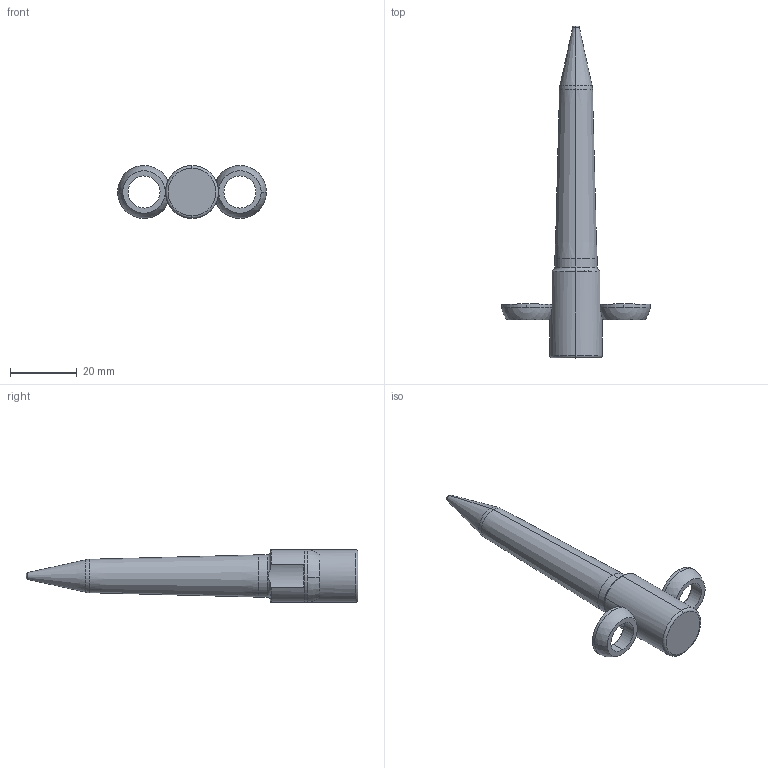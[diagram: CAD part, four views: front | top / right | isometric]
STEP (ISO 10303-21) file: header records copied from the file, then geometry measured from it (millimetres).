
FILE_DESCRIPTION (( 'STEP AP214' ), '1' );
FILE_NAME ('PA-T-.500-.100-2.0-3-A-F2.STEP', '2019-05-08T17:37:54', ( '' ), ( '' ), 'SwSTEP 2.0', 'SolidWorks 2017', '' );
FILE_SCHEMA (( 'AUTOMOTIVE_DESIGN' ));
Length unit declared in the file: inch
Products named in the file (3): SLRadiusWasher_RadiusWasher-E; PA-T-.500-.100-2.0-3-A-F2; SLPilot-PA-T-E_PA-T-.500-.100-2.0-3-A-F2
Assembly tree (3 placements, depth 2):
  PA-T-.500-.100-2.0-3-A-F2
    SLPilot-PA-T-E_PA-T-.500-.100-2.0-3-A-F2
    SLRadiusWasher_RadiusWasher-E  x2
Bounding box: 44.67 x 99.69 x 15.88 mm (x, y, z)
Volume: 12251.4 mm3; surface area: 4960.2 mm2
Topology: 3 solids, 3 shells, 49 faces, 112 edges, 69 vertices
Faces by surface type: cylinder 14, torus 11, plane 8, sphere 8, cone 8
Entity records: 1384 total; most frequent: CARTESIAN_POINT 332, DIRECTION 232, ORIENTED_EDGE 180, AXIS2_PLACEMENT_3D 107, EDGE_CURVE 90, CIRCLE 62, VERTEX_POINT 55, EDGE_LOOP 41
